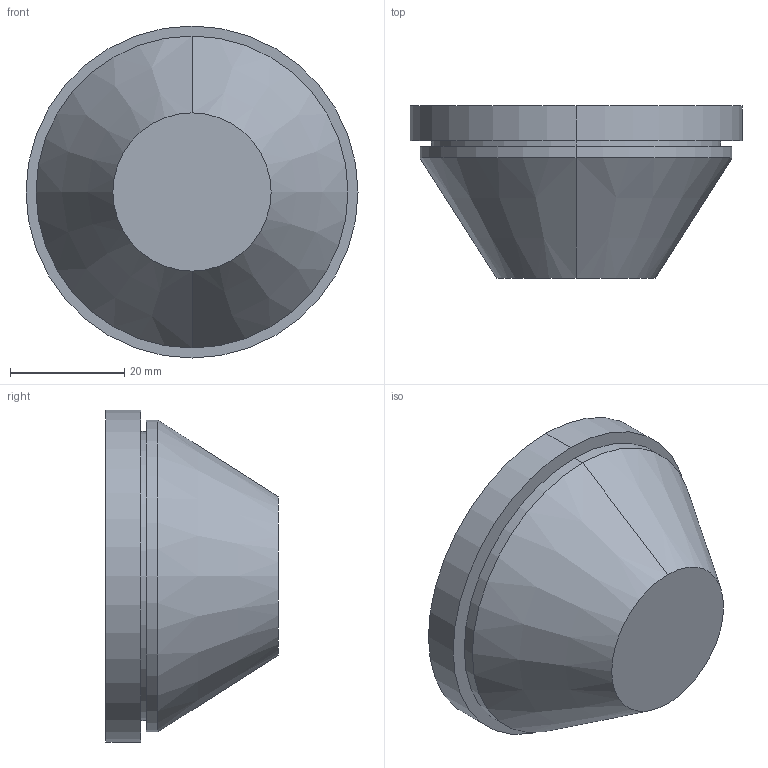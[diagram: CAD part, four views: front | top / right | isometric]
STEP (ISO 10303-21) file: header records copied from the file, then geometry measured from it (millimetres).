
FILE_DESCRIPTION (( 'STEP AP203' ), '1' );
FILE_NAME ('100229.STEP', '2012-10-25T05:12:20', ( 'Joni' ), ( 'Hewlett-Packard Company' ), 'SwSTEP 2.0', 'SolidWorks 2012', '' );
FILE_SCHEMA (( 'CONFIG_CONTROL_DESIGN' ));
Length unit declared in the file: millimetre
Products named in the file (1): 100229
Bounding box: 58 x 30.1 x 58 mm (x, y, z)
Volume: 51598.5 mm3; surface area: 9040 mm2
Topology: 1 solids, 1 shells, 12 faces, 22 edges, 14 vertices
Faces by surface type: cylinder 6, plane 4, cone 2
Entity records: 381 total; most frequent: DIRECTION 62, CARTESIAN_POINT 49, ORIENTED_EDGE 44, AXIS2_PLACEMENT_3D 27, EDGE_CURVE 22, CIRCLE 14, EDGE_LOOP 14, VERTEX_POINT 14
